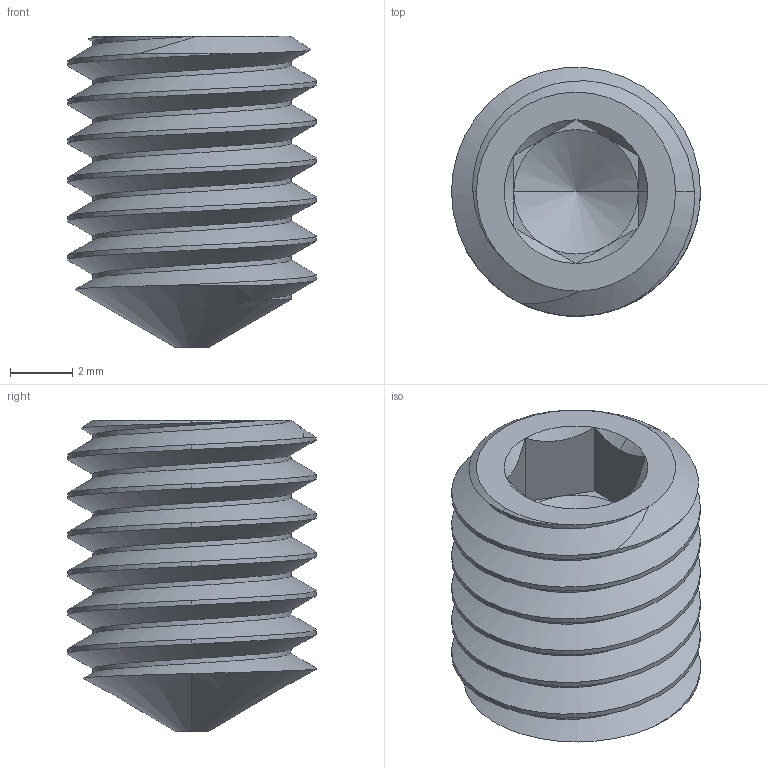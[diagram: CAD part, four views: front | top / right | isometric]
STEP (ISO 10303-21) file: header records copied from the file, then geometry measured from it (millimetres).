
FILE_DESCRIPTION (( 'STEP AP203' ), '1' );
FILE_NAME ('91217A305.step', '2013-09-20T15:18:53', ( '' ), ( '' ), 'SwSTEP 2.0', 'SolidWorks 2010', '' );
FILE_SCHEMA (( 'CONFIG_CONTROL_DESIGN' ));
Length unit declared in the file: millimetre
Products named in the file (1): 91217A305
Bounding box: 8 x 7.99 x 10 mm (x, y, z)
Volume: 321.8 mm3; surface area: 438.5 mm2
Topology: 1 solids, 1 shells, 44 faces, 106 edges, 63 vertices
Faces by surface type: cone 14, plane 14, cylinder 13, bspline 3
Entity records: 2660 total; most frequent: CARTESIAN_POINT 1694, ORIENTED_EDGE 208, DIRECTION 161, EDGE_CURVE 104, VERTEX_POINT 63, AXIS2_PLACEMENT_3D 62, EDGE_LOOP 45, FACE_OUTER_BOUND 44
